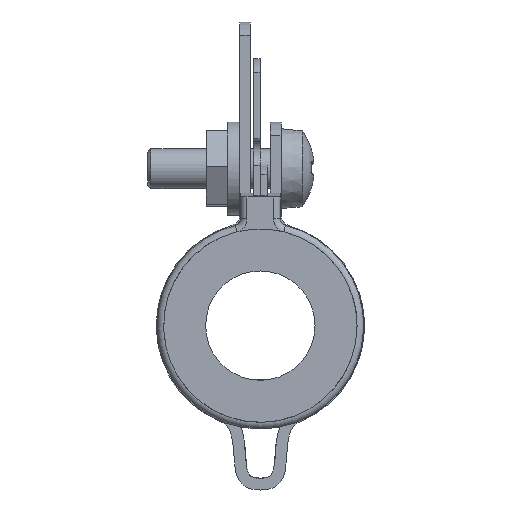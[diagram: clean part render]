
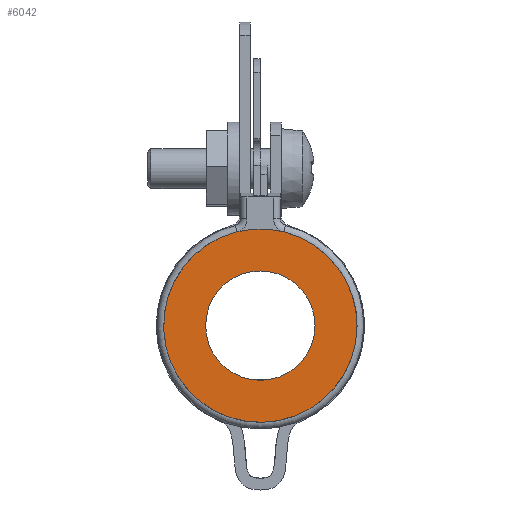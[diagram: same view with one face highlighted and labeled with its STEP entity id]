
A CAD part, front view. The second image highlights one B-rep face of the part: STEP entity #6042.
In plain terms, the highlighted planar face has unit normal (0, -1, 0).
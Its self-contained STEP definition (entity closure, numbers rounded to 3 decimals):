
#141=FACE_BOUND($,#987,.T.);
#579=FACE_OUTER_BOUND($,#986,.T.);
#986=EDGE_LOOP($,(#5104));
#987=EDGE_LOOP($,(#5105));
#1300=CIRCLE($,#6629,7.25);
#1305=CIRCLE($,#6676,4.1);
#2725=VERTEX_POINT($,#10339);
#2736=VERTEX_POINT($,#10407);
#3517=EDGE_CURVE($,#2725,#2725,#1300,.T.);
#3532=EDGE_CURVE($,#2736,#2736,#1305,.T.);
#5104=ORIENTED_EDGE($,*,*,#3517,.T.);
#5105=ORIENTED_EDGE($,*,*,#3532,.T.);
#5370=PLANE($,#6679);
#6042=ADVANCED_FACE($,(#579,#141),#5370,.T.);
#6629=AXIS2_PLACEMENT_3D($,#10340,#8267,#8268);
#6676=AXIS2_PLACEMENT_3D($,#10408,#8371,#8372);
#6679=AXIS2_PLACEMENT_3D($,#10411,#8377,#8378);
#8267=DIRECTION('center_axis',(0.,-1.,0.));
#8268=DIRECTION('ref_axis',(-1.,0.,0.));
#8371=DIRECTION('center_axis',(0.,1.,0.));
#8372=DIRECTION('ref_axis',(1.,0.,0.));
#8377=DIRECTION('center_axis',(0.,-1.,0.));
#8378=DIRECTION('ref_axis',(0.,0.,-1.));
#10339=CARTESIAN_POINT('',(7.25,0.,0.));
#10340=CARTESIAN_POINT('Origin',(0.,0.,0.));
#10407=CARTESIAN_POINT('',(-4.1,0.,0.));
#10408=CARTESIAN_POINT('Origin',(0.,0.,0.));
#10411=CARTESIAN_POINT('Origin',(0.,0.,0.));
